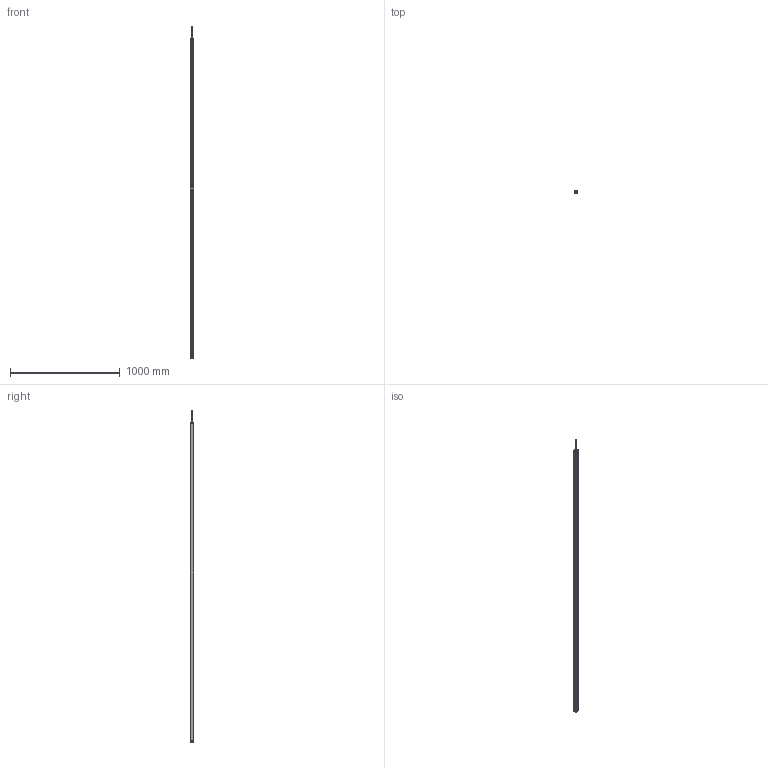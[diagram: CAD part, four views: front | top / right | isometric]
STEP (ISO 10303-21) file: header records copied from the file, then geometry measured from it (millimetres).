
FILE_DESCRIPTION((''),'2;1');
FILE_NAME('SMT1-CGQ_ASM','2025-08-08T08:57:38',('Administrator'),(''),'CREO PARAMETRIC BY PTC INC, 2016510','CREO PARAMETRIC BY PTC INC, 2016510','');
FILE_SCHEMA(('CONFIG_CONTROL_DESIGN'));
Length unit declared in the file: millimetre
Products named in the file (7): SMT1-XINGCAI-V1; SMT1-SDG-V1; SMT1-XDG-V1; M12-CHATOU; ST3X18; CT4-LVGUANGBAN; SMT1-CGQ_ASM
Assembly tree (13 placements, depth 2):
  SMT1-CGQ_ASM
    SMT1-XINGCAI-V1
    SMT1-SDG-V1
    SMT1-XDG-V1
    M12-CHATOU
    ST3X18  x8
    CT4-LVGUANGBAN
Bounding box: 33 x 28.02 x 3019.5 mm (x, y, z)
Volume: 2241736.2 mm3; surface area: 710817.3 mm2
Topology: 13 solids, 13 shells, 712 faces, 1868 edges, 1200 vertices
Faces by surface type: plane 382, cylinder 184, extrusion 86, sphere 32, cone 20, bspline 8
Entity records: 18128 total; most frequent: CARTESIAN_POINT 4347, ORIENTED_EDGE 2916, DIRECTION 2580, EDGE_CURVE 1458, VECTOR 1036, VERTEX_POINT 955, LINE 950, AXIS2_PLACEMENT_3D 772
